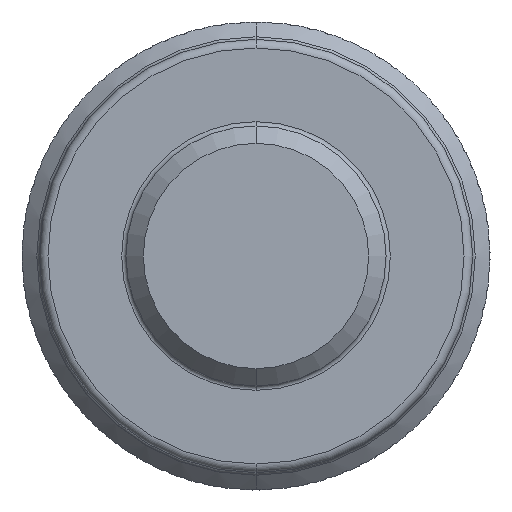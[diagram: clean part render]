
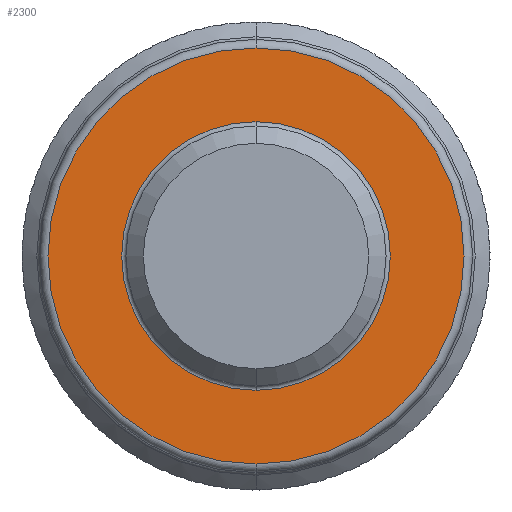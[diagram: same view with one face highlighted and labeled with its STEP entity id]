
A CAD part, front view. The second image highlights one B-rep face of the part: STEP entity #2300.
In plain terms, the highlighted planar face has unit normal (0, -1, 0).
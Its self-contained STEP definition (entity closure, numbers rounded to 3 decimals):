
#285 = CARTESIAN_POINT ( 'NONE',  ( 0., -3., 2.4 ) ) ;
#396 = DIRECTION ( 'NONE',  ( 0., 1., 0. ) ) ;
#712 = VERTEX_POINT ( 'NONE', #3888 ) ;
#762 = ORIENTED_EDGE ( 'NONE', *, *, #6504, .T. ) ;
#803 = VERTEX_POINT ( 'NONE', #8685 ) ;
#1235 = PLANE ( 'NONE',  #8498 ) ;
#1381 = CARTESIAN_POINT ( 'NONE',  ( 1.5, -3., 0. ) ) ;
#1567 = EDGE_LOOP ( 'NONE', ( #6590, #5401 ) ) ;
#1650 = DIRECTION ( 'NONE',  ( 0., -1., 0. ) ) ;
#1829 = CIRCLE ( 'NONE', #9749, 1.55 ) ;
#1986 = FACE_BOUND ( 'NONE', #7083, .T. ) ;
#2300 = ADVANCED_FACE ( 'NONE', ( #1986, #5920 ), #1235, .T. ) ;
#2619 = DIRECTION ( 'NONE',  ( 0., 0., -1. ) ) ;
#3093 = AXIS2_PLACEMENT_3D ( 'NONE', #9751, #396, #5192 ) ;
#3549 = VERTEX_POINT ( 'NONE', #8542 ) ;
#3888 = CARTESIAN_POINT ( 'NONE',  ( 0., -3., 1.55 ) ) ;
#3909 = VERTEX_POINT ( 'NONE', #285 ) ;
#4457 = DIRECTION ( 'NONE',  ( 0., -1., 0. ) ) ;
#4470 = EDGE_CURVE ( 'NONE', #712, #3549, #5986, .T. ) ;
#4679 = CARTESIAN_POINT ( 'NONE',  ( 0., -3., 0. ) ) ;
#4756 = EDGE_CURVE ( 'NONE', #3909, #803, #8593, .T. ) ;
#5192 = DIRECTION ( 'NONE',  ( 0., 0., -1. ) ) ;
#5242 = CARTESIAN_POINT ( 'NONE',  ( 0., -3., 0. ) ) ;
#5401 = ORIENTED_EDGE ( 'NONE', *, *, #4756, .T. ) ;
#5488 = EDGE_CURVE ( 'NONE', #803, #3909, #7456, .T. ) ;
#5920 = FACE_OUTER_BOUND ( 'NONE', #1567, .T. ) ;
#5986 = CIRCLE ( 'NONE', #3093, 1.55 ) ;
#6504 = EDGE_CURVE ( 'NONE', #3549, #712, #1829, .T. ) ;
#6590 = ORIENTED_EDGE ( 'NONE', *, *, #5488, .T. ) ;
#6822 = AXIS2_PLACEMENT_3D ( 'NONE', #5242, #8330, #8997 ) ;
#7083 = EDGE_LOOP ( 'NONE', ( #762, #9780 ) ) ;
#7456 = CIRCLE ( 'NONE', #6822, 2.4 ) ;
#7536 = DIRECTION ( 'NONE',  ( 0., 0., -1. ) ) ;
#7751 = DIRECTION ( 'NONE',  ( 0., 1., 0. ) ) ;
#8330 = DIRECTION ( 'NONE',  ( 0., -1., 0. ) ) ;
#8498 = AXIS2_PLACEMENT_3D ( 'NONE', #1381, #4457, #7536 ) ;
#8542 = CARTESIAN_POINT ( 'NONE',  ( 0., -3., -1.55 ) ) ;
#8593 = CIRCLE ( 'NONE', #9733, 2.4 ) ;
#8685 = CARTESIAN_POINT ( 'NONE',  ( 0., -3., -2.4 ) ) ;
#8997 = DIRECTION ( 'NONE',  ( 0., 0., -1. ) ) ;
#9332 = DIRECTION ( 'NONE',  ( 0., 0., -1. ) ) ;
#9533 = CARTESIAN_POINT ( 'NONE',  ( 0., -3., 0. ) ) ;
#9733 = AXIS2_PLACEMENT_3D ( 'NONE', #9533, #1650, #2619 ) ;
#9749 = AXIS2_PLACEMENT_3D ( 'NONE', #4679, #7751, #9332 ) ;
#9751 = CARTESIAN_POINT ( 'NONE',  ( 0., -3., 0. ) ) ;
#9780 = ORIENTED_EDGE ( 'NONE', *, *, #4470, .T. ) ;
